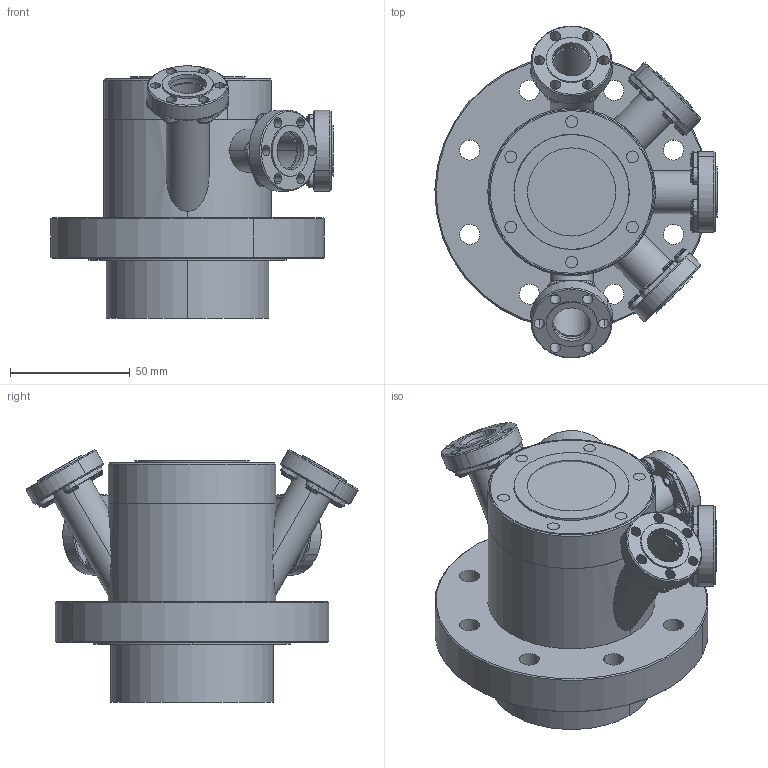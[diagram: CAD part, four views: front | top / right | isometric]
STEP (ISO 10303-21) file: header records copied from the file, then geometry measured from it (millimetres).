
FILE_DESCRIPTION(('Confidential','CAx-IF Rec.Pracs.--- Model Styling and Organization---1.2---2011-12-15'),'2;1');
FILE_NAME('W:\KONSTRUKTION\PRODUCTS\MP\MPCF\MPCF63\MPCF63CF40T3XCF162XCF1630DEG\DOC\MPCF63CF40T3XCF162XCF1630DEG_Rev_B.stp','2025-07-15T13:45:49+00:00',('none'),('Ferrovac AG'),'CATIA Version 5 Release 21 SP 6 (IN-10)','CATIA V5 STEP AP214 Edition 3','PROPERTY OF FERROVAC AG');
FILE_SCHEMA(('AUTOMOTIVE_DESIGN { 1 0 10303 214 3 1 1 1 }'));
Length unit declared in the file: millimetre
Products named in the file (14): MPCF63CF40T3XCF162XCF1630DEG; MPCF63CF40T3XCF162XCF1630DEG_Cutter; MPCF63CF40T3XCF162XCF1630DEG_P1; 25769; MPCF63CF40T3XCF162XCF1630DEG_P3.1; MPCF63CF40T3XCF162XCF1630DEG_P4; GACF16; 60554; GACF40; 60557; GACF63S; 60559; BOPNCF16; 39104013
Assembly tree (26 placements, depth 3):
  MPCF63CF40T3XCF162XCF1630DEG
    MPCF63CF40T3XCF162XCF1630DEG_Cutter
    MPCF63CF40T3XCF162XCF1630DEG_P1
    25769
    MPCF63CF40T3XCF162XCF1630DEG_P3.1  x2
    MPCF63CF40T3XCF162XCF1630DEG_P4  x3
    GACF16  x5
      60554
    GACF40
      60557
    GACF63S
      60559
    BOPNCF16  x5
      39104013
Bounding box: 117.93 x 138.76 x 105.46 mm (x, y, z)
Volume: 552770.8 mm3; surface area: 130623.1 mm2
Topology: 36 solids, 36 shells, 1028 faces, 2414 edges, 1463 vertices
Faces by surface type: cylinder 476, torus 315, plane 146, cone 76, bspline 15
Entity records: 9585 total; most frequent: CARTESIAN_POINT 2351, ORIENTED_EDGE 1492, DIRECTION 1180, EDGE_CURVE 746, AXIS2_PLACEMENT_3D 649, VERTEX_POINT 475, CIRCLE 399, EDGE_LOOP 389
